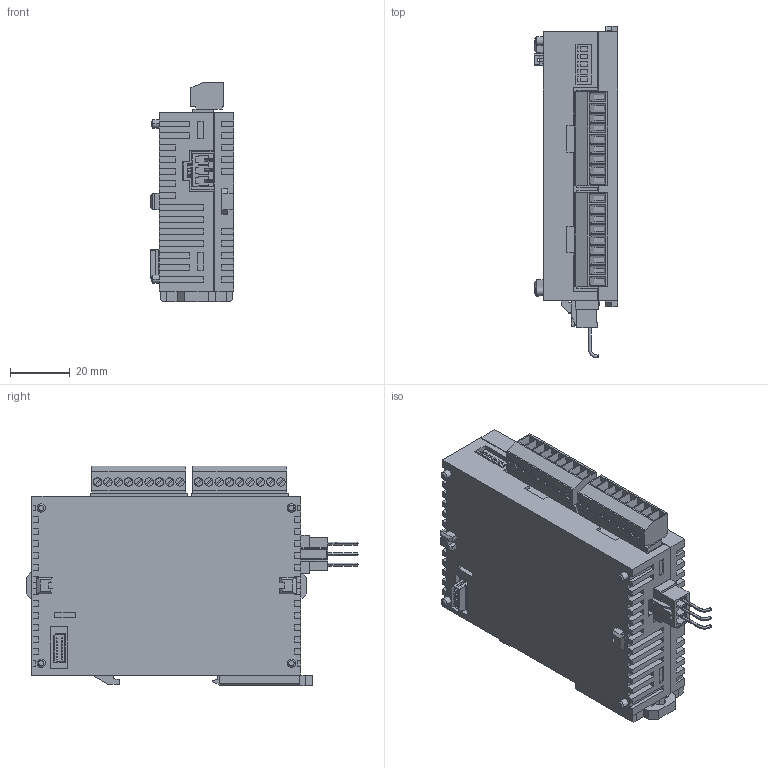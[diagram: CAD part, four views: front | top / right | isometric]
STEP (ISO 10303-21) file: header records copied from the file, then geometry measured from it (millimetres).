
FILE_DESCRIPTION (( 'STEP AP214' ), '1' );
FILE_NAME ('afp0401.stp', '2008-08-28T04:35:23', ( '' ), ( 'PanasonicElectricWorks' ), '', '', '' );
FILE_SCHEMA (( 'AUTOMOTIVE_DESIGN' ));
Length unit declared in the file: millimetre
Products named in the file (1): afp0401
Bounding box: 28 x 111.19 x 73.45 mm (x, y, z)
Volume: 140398.7 mm3; surface area: 27406.8 mm2
Topology: 1 solids, 4 shells, 1026 faces, 2743 edges, 1806 vertices
Faces by surface type: plane 915, cylinder 75, bspline 28, cone 8
Entity records: 51135 total; most frequent: CARTESIAN_POINT 14132, ORIENTED_EDGE 5486, DIRECTION 4931, EDGE_CURVE 2743, VECTOR 2469, LINE 2469, VERTEX_POINT 1806, AXIS2_PLACEMENT_3D 1231
